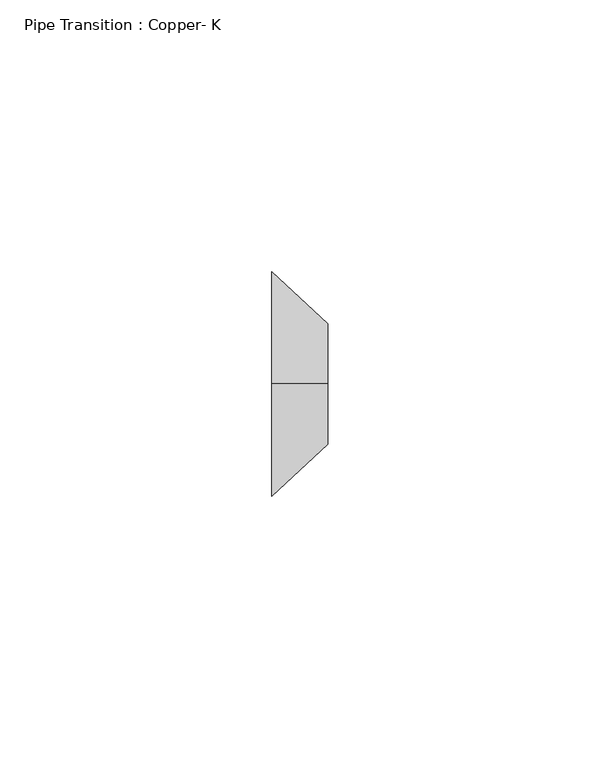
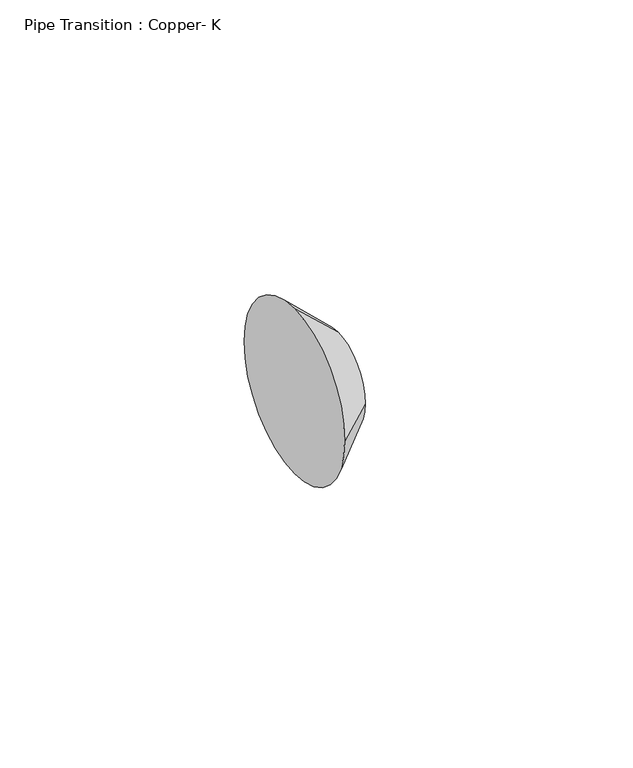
"""IFC4 building model written with IfcOpenShell, lengths in millimetres: pipe fitting geometry, Pipe Transition : Copper- K."""

import ifcopenshell
import ifcopenshell.guid

model = None  # the IFC model being written
_history = None  # IfcOwnerHistory: only IFC2X3 demands one
_inside = {}  # id of a spatial element -> (the spatial element, [elements in it])
_under = {}  # id of a project, library or spatial element -> (it, [spatial elements below it])
_declared = {}  # id of a project -> (the project, [libraries it declares])
_typed = {}  # id of a type object -> (the type object, [elements of that type])
_made_of = {}  # id of a material, layer set ... -> (it, [elements and type objects made of it])


def new_model(schema):
    """Start an empty IFC model of exactly this schema.

    Asked for "IFC4X3", IfcOpenShell would pick the latest addendum, in which some entities
    have other attributes; the version numbers below select the first issue.
    IFC2X3 requires an IfcOwnerHistory on every rooted entity: one is made here for all.
    """
    global model, _history
    if schema == "IFC4X3":
        model = ifcopenshell.file(schema_version=(4, 3, 0, 0))
    else:
        model = ifcopenshell.file(schema=schema)
    _inside.clear()
    _under.clear()
    _declared.clear()
    _typed.clear()
    _made_of.clear()
    _history = None
    if model.schema == "IFC2X3":
        org = make("IfcOrganization", Name="unknown")
        user = make(
            "IfcPersonAndOrganization",
            ThePerson=make("IfcPerson", FamilyName="unknown"),
            TheOrganization=org,
        )
        app = make(
            "IfcApplication",
            ApplicationDeveloper=org,
            Version="unknown",
            ApplicationFullName="unknown",
            ApplicationIdentifier="unknown",
        )
        _history = make(
            "IfcOwnerHistory",
            OwningUser=user,
            OwningApplication=app,
            ChangeAction="ADDED",
            CreationDate=0,
        )
    return model


def make(cls, **values):
    """One entity of the class cls with the attributes given. An attribute that is None is left unset."""
    return model.create_entity(
        cls, **{name: value for name, value in values.items() if value is not None}
    )


def rooted(cls, **values):
    """An entity with a GlobalId (a new one), such as an element, a storey or a relation."""
    return make(cls, GlobalId=ifcopenshell.guid.new(), OwnerHistory=_history, **values)


def si_unit(unit_type, name, prefix=None):
    """IfcSIUnit, for example si_unit("LENGTHUNIT", "METRE", prefix="MILLI")."""
    return make("IfcSIUnit", UnitType=unit_type, Prefix=prefix, Name=name)


def assignment(units):
    """IfcUnitAssignment: the units of a project."""
    return None if units is None else make("IfcUnitAssignment", Units=units)


def point(xyz):
    """IfcCartesianPoint."""
    return None if xyz is None else make("IfcCartesianPoint", Coordinates=xyz)


def direction(xyz):
    """IfcDirection."""
    return None if xyz is None else make("IfcDirection", DirectionRatios=xyz)


def frame(location, z_axis=None, x_axis=None):
    """IfcAxis2Placement3D, a coordinate frame: its origin and axes. An axis left out is left unset."""
    return make(
        "IfcAxis2Placement3D",
        Location=point(location),
        Axis=direction(z_axis),
        RefDirection=direction(x_axis),
    )


def origin():
    """The frame at (0, 0, 0) with its axes left unset."""
    return frame((0.0, 0.0, 0.0))


def place(relative_to, where):
    """IfcLocalPlacement: puts the frame where relative to a parent placement (None: the world)."""
    return make(
        "IfcLocalPlacement", PlacementRelTo=relative_to, RelativePlacement=where
    )


def context(
    kind, dimensions, precision=None, world=None, true_north=None, identifier=None
):
    """IfcGeometricRepresentationContext, for example the 3D "Model" context."""
    return make(
        "IfcGeometricRepresentationContext",
        ContextIdentifier=identifier,
        ContextType=kind,
        CoordinateSpaceDimension=dimensions,
        Precision=precision,
        WorldCoordinateSystem=world,
        TrueNorth=true_north,
    )


def project(units=None, contexts=None):
    """IfcProject with its units and contexts."""
    return rooted(
        "IfcProject",
        Name="project",
        RepresentationContexts=contexts,
        UnitsInContext=assignment(units),
    )


def spatial(cls, under=None, at=None, **own):
    """A site, building, storey or space (cls), placed at a placement, below another one or the project."""
    s = rooted(cls, ObjectPlacement=at, **own)
    if under is not None:
        _under.setdefault(under.id(), (under, []))[1].append(s)
    return s


def circle_curve(where, radius):
    """IfcCircle in the frame where."""
    return make("IfcCircle", Position=where, Radius=radius)


def shape(context_of_items, identifier, shape_type, items):
    """IfcShapeRepresentation: the items that make up one representation, for example the "Body"."""
    return make(
        "IfcShapeRepresentation",
        ContextOfItems=context_of_items,
        RepresentationIdentifier=identifier,
        RepresentationType=shape_type,
        Items=items,
    )


def source(mapping_origin, context_of_items, identifier, shape_type, items):
    """IfcRepresentationMap: a shape defined once, which mapped items show again and again."""
    return make(
        "IfcRepresentationMap",
        MappingOrigin=mapping_origin,
        MappedRepresentation=shape(context_of_items, identifier, shape_type, items),
    )


def transform(
    local_origin,
    x_axis=None,
    y_axis=None,
    z_axis=None,
    scale=None,
    scale2=None,
    scale3=None,
    uniform=True,
):
    """IfcCartesianTransformationOperator3D, or its non-uniform kind. x_axis, y_axis, z_axis: its Axis1, 2, 3."""
    if uniform:
        return make(
            "IfcCartesianTransformationOperator3D",
            Axis1=direction(x_axis),
            Axis2=direction(y_axis),
            LocalOrigin=point(local_origin),
            Scale=scale,
            Axis3=direction(z_axis),
        )
    return make(
        "IfcCartesianTransformationOperator3DnonUniform",
        Axis1=direction(x_axis),
        Axis2=direction(y_axis),
        LocalOrigin=point(local_origin),
        Scale=scale,
        Axis3=direction(z_axis),
        Scale2=scale2,
        Scale3=scale3,
    )


def mapped(mapping_source, mapping_target):
    """IfcMappedItem: shows the shape of a source again, moved by a transform."""
    return make(
        "IfcMappedItem", MappingSource=mapping_source, MappingTarget=mapping_target
    )


def made_of(thing, what):
    """Note that an element or type object is made of a material, layer set ...; save() writes the relation."""
    if what is not None:
        _made_of.setdefault(what.id(), (what, []))[1].append(thing)
    return thing


def element(
    cls,
    number,
    at=None,
    inside=None,
    cuts=None,
    type_object=None,
    material=None,
    context=None,
    identifier="Body",
    shape_type=None,
    held_by="IfcProductDefinitionShape",
    body=None,
    shapes=None,
    **own,
):
    """One element of the class cls, such as IfcWall. Its Tag is "e" and its number.

    at: its placement. inside: the storey or other place that contains it. cuts: it is an
    opening in that element (IfcRelVoidsElement). A single representation is given by context,
    identifier, shape_type and body (its items); several are given by shapes. held_by: the class
    of the entity that holds the representations. save() writes the other relations.
    """
    e = rooted(cls, Tag="e%d" % number, ObjectPlacement=at, **own)
    if body is not None:
        shapes = [shape(context, identifier, shape_type, body)]
    if shapes is not None:
        e.Representation = make(held_by, Representations=shapes)
    if inside is not None:
        _inside.setdefault(inside.id(), (inside, []))[1].append(e)
    if cuts is not None:
        rooted(
            "IfcRelVoidsElement", RelatingBuildingElement=cuts, RelatedOpeningElement=e
        )
    if type_object is not None:
        _typed.setdefault(type_object.id(), (type_object, []))[1].append(e)
    return made_of(e, material)


def aggregate(whole, parts):
    """IfcRelAggregates: a whole, such as a stair, and the parts it consists of."""
    return rooted("IfcRelAggregates", RelatingObject=whole, RelatedObjects=parts)


def save(model, path):
    """Write the relations noted so far, then the file.

    IfcRelAggregates (storeys below a building ...), IfcRelContainedInSpatialStructure (elements
    in a storey), IfcRelDefinesByType, IfcRelAssociatesMaterial and IfcRelDeclares: one each for
    every whole, place, type object, material and project.
    """
    for whole, parts in _under.values():
        aggregate(whole, parts)
    for where, things in _inside.values():
        rooted(
            "IfcRelContainedInSpatialStructure",
            RelatedElements=things,
            RelatingStructure=where,
        )
    for kind, things in _typed.values():
        rooted("IfcRelDefinesByType", RelatedObjects=things, RelatingType=kind)
    for what, things in _made_of.values():
        rooted("IfcRelAssociatesMaterial", RelatedObjects=things, RelatingMaterial=what)
    for by, libraries in _declared.values():
        rooted("IfcRelDeclares", RelatingContext=by, RelatedDefinitions=libraries)
    model.write(path)


def plane_surface(at):
    """IfcPlane: the flat surface through the origin of the frame at, square to its z axis."""
    return make("IfcPlane", Position=at)


def spline_surface(u_degree, v_degree, points, u_multiplicities, v_multiplicities, u_knots, v_knots, weights=None):
    """IfcBSplineSurfaceWithKnots; with weights, IfcRationalBSplineSurfaceWithKnots. points: one row for each step in u."""
    own = dict(
        UDegree=u_degree,
        VDegree=v_degree,
        ControlPointsList=[[point(p) for p in row] for row in points],
        SurfaceForm="UNSPECIFIED",
        UClosed=False,
        VClosed=False,
        SelfIntersect=False,
        UMultiplicities=u_multiplicities,
        VMultiplicities=v_multiplicities,
        UKnots=u_knots,
        VKnots=v_knots,
        KnotSpec="UNSPECIFIED",
    )
    if weights is None:
        return make("IfcBSplineSurfaceWithKnots", **own)
    return make("IfcRationalBSplineSurfaceWithKnots", WeightsData=weights, **own)


def advanced_brep(points, edges, surfaces, faces):
    """IfcAdvancedBrep: a solid bounded by faces that lie on surfaces and meet in shared edges.

    An edge is (start, end): straight between two places in points (the first is 0);
    or (start, end, curve); or (start, end, curve, False) where it runs against its curve.
    A face is (place in surfaces, loops), or (place, loops, False) where it looks against
    its surface's normal. A loop lists edges by number (the first is 1), with a minus sign
    where the edge is run from its end to its start. The first loop is the outer one.
    """
    corners = [point(p) for p in points]
    vertices = [make("IfcVertexPoint", VertexGeometry=c) for c in corners]
    made = []
    for start, end, *more in edges:
        made.append(
            make(
                "IfcEdgeCurve",
                EdgeStart=vertices[start],
                EdgeEnd=vertices[end],
                EdgeGeometry=more[0] if more else make("IfcPolyline", Points=[corners[start], corners[end]]),
                SameSense=more[1] if len(more) > 1 else True,
            )
        )
    hull = []
    for where, loops, *sense in faces:
        bounds = []
        for j, loop in enumerate(loops):
            ring = [make("IfcOrientedEdge", EdgeElement=made[abs(k) - 1], Orientation=k > 0) for k in loop]
            bounds.append(
                make(
                    "IfcFaceOuterBound" if j == 0 else "IfcFaceBound",
                    Bound=make("IfcEdgeLoop", EdgeList=ring),
                    Orientation=True,
                )
            )
        hull.append(make("IfcAdvancedFace", Bounds=bounds, FaceSurface=surfaces[where], SameSense=sense[0] if sense else True))
    return make("IfcAdvancedBrep", Outer=make("IfcClosedShell", CfsFaces=hull))


def pipe_transition_copper_k_b05aebf9(model_context):
    return source(origin(), model_context, "Body", "AdvancedBrep", [
        advanced_brep(
        [(10.31875, 0.0, 11.1200911), (10.31875, -11.1125, 0.0075911), (10.31875, 0.0, -11.1049089), (10.31875, 11.1125, 0.0075911), (0.0, 0.0, 20.6375), (0.0, 20.6375, 0.0), (0.0, 0.0, -20.6375), (0.0, -20.6375, 0.0)],
        [
            (0, 1, circle_curve(frame((10.31875, 0.0, 0.0075911), z_axis=(1.0, 0.0, 0.0), x_axis=(0.0, 1.0, 0.0)), 11.1125)),
            (1, 2, circle_curve(frame((10.31875, 0.0, 0.0075911), z_axis=(1.0, 0.0, 0.0), x_axis=(0.0, 1.0, 0.0)), 11.1125)),
            (2, 3, circle_curve(frame((10.31875, 0.0, 0.0075911), z_axis=(1.0, 0.0, 0.0), x_axis=(0.0, 1.0, 0.0)), 11.1125)),
            (3, 0, circle_curve(frame((10.31875, 0.0, 0.0075911), z_axis=(1.0, 0.0, 0.0), x_axis=(0.0, 1.0, 0.0)), 11.1125)),
            (4, 5, circle_curve(frame((0.0, 0.0, 0.0), z_axis=(-1.0, 0.0, 0.0), x_axis=(0.0, 1.0, 0.0)), 20.6375)),
            (5, 6, circle_curve(frame((0.0, 0.0, 0.0), z_axis=(-1.0, 0.0, 0.0), x_axis=(0.0, 1.0, 0.0)), 20.6375)),
            (6, 7, circle_curve(frame((0.0, 0.0, 0.0), z_axis=(-1.0, 0.0, 0.0), x_axis=(0.0, 1.0, 0.0)), 20.6375)),
            (7, 4, circle_curve(frame((0.0, 0.0, 0.0), z_axis=(-1.0, 0.0, 0.0), x_axis=(0.0, 1.0, 0.0)), 20.6375)),
            (7, 1),
            (0, 4),
            (6, 2),
            (5, 3),
        ],
        [
            plane_surface(frame((10.31875, 0.0, 0.0075911), z_axis=(1.0, 0.0, 0.0), x_axis=(0.0, -1.0, 0.0))),
            plane_surface(frame((0.0, 0.0, 0.0), z_axis=(-1.0, 0.0, 0.0), x_axis=(0.0, -1.0, 0.0))),
            spline_surface(2, 1, [[(0.0, 0.0, 20.6375), (10.31875, 0.0, 11.1200911)], [(0.0, -20.6375, 20.6375), (10.31875, -11.112499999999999, 11.1200911)], [(0.0, -20.6375, 0.0), (10.31875, -11.1125, 0.0075911)]], [3, 3], [2, 2], [0.0, 1.0], [0.0, 1.0], weights=[[1.0, 1.0], [0.7071067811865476, 0.7071067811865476], [1.0, 1.0]]),
            spline_surface(2, 1, [[(0.0, -20.6375, 0.0), (10.31875, -11.1125, 0.0075911)], [(0.0, -20.6375, -20.6375), (10.31875, -11.1125, -11.1049089)], [(0.0, 0.0, -20.6375), (10.31875, 0.0, -11.1049089)]], [3, 3], [2, 2], [0.0, 1.0], [0.0, 1.0], weights=[[1.0, 1.0], [0.7071067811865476, 0.7071067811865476], [1.0, 1.0]]),
            spline_surface(2, 1, [[(0.0, 0.0, -20.6375), (10.31875, 0.0, -11.1049089)], [(0.0, 20.6375, -20.6375), (10.31875, 11.1125, -11.1049089)], [(0.0, 20.6375, 0.0), (10.31875, 11.1125, 0.0075911)]], [3, 3], [2, 2], [0.0, 1.0], [0.0, 1.0], weights=[[1.0, 1.0], [0.7071067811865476, 0.7071067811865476], [1.0, 1.0]]),
            spline_surface(2, 1, [[(0.0, 20.6375, 0.0), (10.31875, 11.1125, 0.0075911)], [(0.0, 20.6375, 20.6375), (10.31875, 11.1125, 11.120091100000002)], [(0.0, 0.0, 20.6375), (10.31875, 0.0, 11.1200911)]], [3, 3], [2, 2], [0.0, 1.0], [0.0, 1.0], weights=[[1.0, 1.0], [0.7071067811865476, 0.7071067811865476], [1.0, 1.0]]),
        ],
        [
            (0, [[1, 2, 3, 4]]),
            (1, [[5, 6, 7, 8]]),
            (2, [[-8, 9, -1, 10]]),
            (3, [[-7, 11, -2, -9]]),
            (4, [[-6, 12, -3, -11]]),
            (5, [[-5, -10, -4, -12]]),
        ],
    ),
        advanced_brep(
        [(10.31875, 0.0, 11.1200911), (10.31875, -11.1125, 0.0075911), (10.31875, 0.0, -11.1049089), (10.31875, 11.1125, 0.0075911), (0.0, 0.0, 20.6375), (0.0, 20.6375, 0.0), (0.0, 0.0, -20.6375), (0.0, -20.6375, 0.0)],
        [
            (0, 1, circle_curve(frame((10.31875, 0.0, 0.0075911), z_axis=(1.0, 0.0, 0.0), x_axis=(0.0, 1.0, 0.0)), 11.1125)),
            (1, 2, circle_curve(frame((10.31875, 0.0, 0.0075911), z_axis=(1.0, 0.0, 0.0), x_axis=(0.0, 1.0, 0.0)), 11.1125)),
            (2, 3, circle_curve(frame((10.31875, 0.0, 0.0075911), z_axis=(1.0, 0.0, 0.0), x_axis=(0.0, 1.0, 0.0)), 11.1125)),
            (3, 0, circle_curve(frame((10.31875, 0.0, 0.0075911), z_axis=(1.0, 0.0, 0.0), x_axis=(0.0, 1.0, 0.0)), 11.1125)),
            (4, 5, circle_curve(frame((0.0, 0.0, 0.0), z_axis=(-1.0, 0.0, 0.0), x_axis=(0.0, 1.0, 0.0)), 20.6375)),
            (5, 6, circle_curve(frame((0.0, 0.0, 0.0), z_axis=(-1.0, 0.0, 0.0), x_axis=(0.0, 1.0, 0.0)), 20.6375)),
            (6, 7, circle_curve(frame((0.0, 0.0, 0.0), z_axis=(-1.0, 0.0, 0.0), x_axis=(0.0, 1.0, 0.0)), 20.6375)),
            (7, 4, circle_curve(frame((0.0, 0.0, 0.0), z_axis=(-1.0, 0.0, 0.0), x_axis=(0.0, 1.0, 0.0)), 20.6375)),
            (7, 1),
            (0, 4),
            (6, 2),
            (5, 3),
        ],
        [
            plane_surface(frame((10.31875, 0.0, 0.0075911), z_axis=(1.0, 0.0, 0.0), x_axis=(0.0, -1.0, 0.0))),
            plane_surface(frame((0.0, 0.0, 0.0), z_axis=(-1.0, 0.0, 0.0), x_axis=(0.0, -1.0, 0.0))),
            spline_surface(2, 1, [[(0.0, 0.0, 20.6375), (10.31875, 0.0, 11.1200911)], [(0.0, -20.6375, 20.6375), (10.31875, -11.112499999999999, 11.1200911)], [(0.0, -20.6375, 0.0), (10.31875, -11.1125, 0.0075911)]], [3, 3], [2, 2], [0.0, 1.0], [0.0, 1.0], weights=[[1.0, 1.0], [0.7071067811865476, 0.7071067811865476], [1.0, 1.0]]),
            spline_surface(2, 1, [[(0.0, -20.6375, 0.0), (10.31875, -11.1125, 0.0075911)], [(0.0, -20.6375, -20.6375), (10.31875, -11.1125, -11.1049089)], [(0.0, 0.0, -20.6375), (10.31875, 0.0, -11.1049089)]], [3, 3], [2, 2], [0.0, 1.0], [0.0, 1.0], weights=[[1.0, 1.0], [0.7071067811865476, 0.7071067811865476], [1.0, 1.0]]),
            spline_surface(2, 1, [[(0.0, 0.0, -20.6375), (10.31875, 0.0, -11.1049089)], [(0.0, 20.6375, -20.6375), (10.31875, 11.1125, -11.1049089)], [(0.0, 20.6375, 0.0), (10.31875, 11.1125, 0.0075911)]], [3, 3], [2, 2], [0.0, 1.0], [0.0, 1.0], weights=[[1.0, 1.0], [0.7071067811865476, 0.7071067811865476], [1.0, 1.0]]),
            spline_surface(2, 1, [[(0.0, 20.6375, 0.0), (10.31875, 11.1125, 0.0075911)], [(0.0, 20.6375, 20.6375), (10.31875, 11.1125, 11.120091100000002)], [(0.0, 0.0, 20.6375), (10.31875, 0.0, 11.1200911)]], [3, 3], [2, 2], [0.0, 1.0], [0.0, 1.0], weights=[[1.0, 1.0], [0.7071067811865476, 0.7071067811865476], [1.0, 1.0]]),
        ],
        [
            (0, [[1, 2, 3, 4]]),
            (1, [[5, 6, 7, 8]]),
            (2, [[-8, 9, -1, 10]]),
            (3, [[-7, 11, -2, -9]]),
            (4, [[-6, 12, -3, -11]]),
            (5, [[-5, -10, -4, -12]]),
        ],
    ),
    ])


if __name__ == "__main__":
    model = new_model("IFC4")
    model_context = context("Model", 3, world=origin())
    ifc_project = project(units=[si_unit("LENGTHUNIT", "METRE", prefix="MILLI")], contexts=[model_context])
    site = spatial("IfcSite", under=ifc_project)
    building = spatial("IfcBuilding", under=site)
    placement = place(None, origin())
    pipe_transition_copper_k_shape = pipe_transition_copper_k_b05aebf9(model_context)
    element("IfcPipeFitting", 1, ObjectType="Pipe Transition : Copper- K", at=placement, inside=building, context=model_context, shape_type="MappedRepresentation", body=[
        mapped(pipe_transition_copper_k_shape, transform((0.0, 0.0, 0.0), x_axis=(1.0, 0.0, 0.0), y_axis=(0.0, 1.0, 0.0), z_axis=(0.0, 0.0, 1.0))),
    ])
    save(model, "model.ifc")
